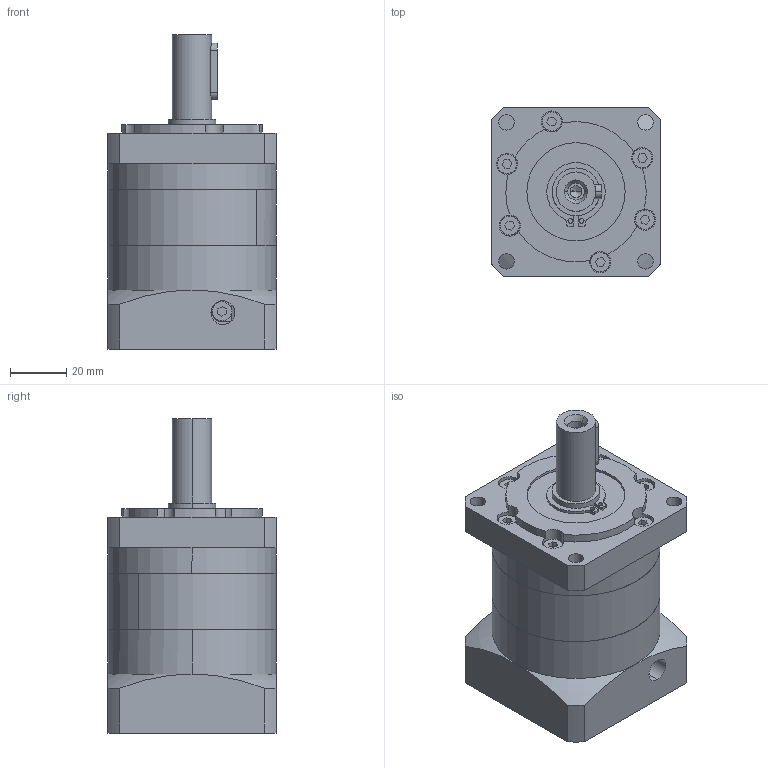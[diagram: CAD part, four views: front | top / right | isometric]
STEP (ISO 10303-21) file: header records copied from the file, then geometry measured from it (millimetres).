
FILE_DESCRIPTION (( 'STEP AP203' ), '1' );
FILE_NAME ('PLF060-L1-14-50-70¹«°æ.STEP', '2024-07-24T07:35:31', ( 'Windows User' ), ( 'P R C' ), 'SwSTEP 2.0', 'SolidWorks 2016', '' );
FILE_SCHEMA (( 'CONFIG_CONTROL_DESIGN' ));
Length unit declared in the file: millimetre
Products named in the file (8): 囀鞠褒蹟佪-M4℅12; PLF060 κｳﾝﾈｦ_ﾒｻｼｶﾄﾚｳﾝﾈｦ_1; PLF060 奻屳唳梓袧; GB／T276-94深沟球轴承61905-2RZ; PLF060 狟屳唳梓袧; PLF060-L1-14-50-70鼠唳; PLF060-窣諉啣梓袧_1; 邧埴瑩 5x5x20
Assembly tree (7 placements, depth 2):
  PLF060-L1-14-50-70鼠唳
    囀鞠褒蹟佪-M4℅12
    PLF060 κｳﾝﾈｦ_ﾒｻｼｶﾄﾚｳﾝﾈｦ_1
    PLF060 奻屳唳梓袧
    PLF060 狟屳唳梓袧
    PLF060-窣諉啣梓袧_1
    邧埴瑩 5x5x20
    GB／T276-94深沟球轴承61905-2RZ
Bounding box: 60 x 60 x 112 mm (x, y, z)
Volume: 215679.3 mm3; surface area: 65741.3 mm2
Topology: 7 solids, 7 shells, 705 faces, 1977 edges, 1300 vertices
Faces by surface type: plane 287, cylinder 177, sphere 91, torus 72, bspline 60, cone 18
Entity records: 30237 total; most frequent: CARTESIAN_POINT 11786, ORIENTED_EDGE 3856, DIRECTION 3477, EDGE_CURVE 1928, AXIS2_PLACEMENT_3D 1377, VERTEX_POINT 1274, EDGE_LOOP 822, LINE 723
